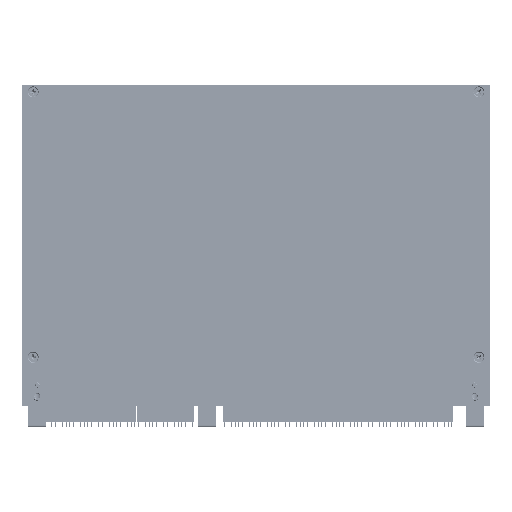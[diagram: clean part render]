
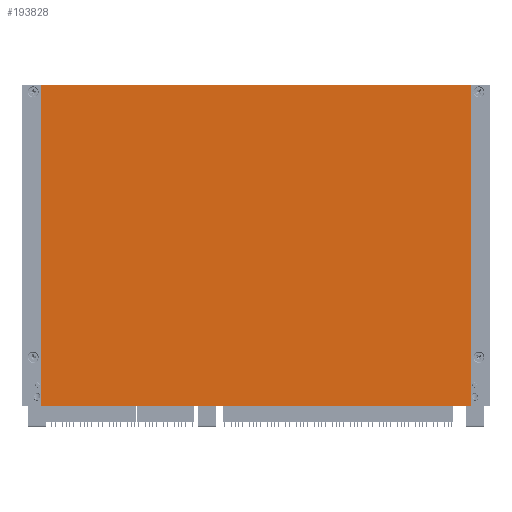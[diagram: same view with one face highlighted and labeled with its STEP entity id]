
A CAD part, left-side view. The second image highlights one B-rep face of the part: STEP entity #193828.
In plain terms, the highlighted planar face has unit normal (-1, 0, 0) as drawn and (0, 1, 0) by its records, which use the part's own axes.
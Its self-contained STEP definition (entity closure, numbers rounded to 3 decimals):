
#2120 = CARTESIAN_POINT ( 'NONE',  ( 107.213, 2.794, 160. ) ) ;
#4235 = DIRECTION ( 'NONE',  ( 0., 0., -1. ) ) ;
#24233 = VERTEX_POINT ( 'NONE', #2120 ) ;
#32590 = DIRECTION ( 'NONE',  ( -1., 0., 0. ) ) ;
#43149 = FACE_OUTER_BOUND ( 'NONE', #54106, .T. ) ;
#47545 = CARTESIAN_POINT ( 'NONE',  ( -107.213, 2.794, 160. ) ) ;
#48130 = EDGE_CURVE ( 'NONE', #80058, #160723, #224708, .T. ) ;
#49796 = DIRECTION ( 'NONE',  ( 0., 0., -1. ) ) ;
#54106 = EDGE_LOOP ( 'NONE', ( #255325, #88978, #160714, #247821 ) ) ;
#54832 = VERTEX_POINT ( 'NONE', #240835 ) ;
#59860 = CARTESIAN_POINT ( 'NONE',  ( -107.213, 2.794, 160. ) ) ;
#67775 = AXIS2_PLACEMENT_3D ( 'NONE', #199683, #123934, #4235 ) ;
#79980 = DIRECTION ( 'NONE',  ( -1., 0., 0. ) ) ;
#80058 = VERTEX_POINT ( 'NONE', #47545 ) ;
#87109 = CARTESIAN_POINT ( 'NONE',  ( -107.213, 2.794, 0. ) ) ;
#88978 = ORIENTED_EDGE ( 'NONE', *, *, #48130, .F. ) ;
#112450 = DIRECTION ( 'NONE',  ( 0., 0., -1. ) ) ;
#119506 = PLANE ( 'NONE',  #67775 ) ;
#120768 = EDGE_CURVE ( 'NONE', #54832, #160723, #236388, .T. ) ;
#123934 = DIRECTION ( 'NONE',  ( 0., -1., 0. ) ) ;
#135278 = VECTOR ( 'NONE', #79980, 1000. ) ;
#136593 = LINE ( 'NONE', #59860, #135278 ) ;
#160714 = ORIENTED_EDGE ( 'NONE', *, *, #191678, .F. ) ;
#160723 = VERTEX_POINT ( 'NONE', #87109 ) ;
#191678 = EDGE_CURVE ( 'NONE', #24233, #80058, #136593, .T. ) ;
#193828 = ADVANCED_FACE ( 'NONE', ( #43149 ), #119506, .F. ) ;
#195755 = EDGE_CURVE ( 'NONE', #24233, #54832, #219562, .T. ) ;
#199683 = CARTESIAN_POINT ( 'NONE',  ( -107.213, 2.794, 160. ) ) ;
#212360 = CARTESIAN_POINT ( 'NONE',  ( -107.213, 2.794, 0. ) ) ;
#218602 = VECTOR ( 'NONE', #49796, 1000. ) ;
#219562 = LINE ( 'NONE', #228605, #218602 ) ;
#221725 = VECTOR ( 'NONE', #112450, 1000. ) ;
#224708 = LINE ( 'NONE', #251959, #221725 ) ;
#228605 = CARTESIAN_POINT ( 'NONE',  ( 107.213, 2.794, 160. ) ) ;
#235817 = VECTOR ( 'NONE', #32590, 1000. ) ;
#236388 = LINE ( 'NONE', #212360, #235817 ) ;
#240835 = CARTESIAN_POINT ( 'NONE',  ( 107.213, 2.794, 0. ) ) ;
#247821 = ORIENTED_EDGE ( 'NONE', *, *, #195755, .T. ) ;
#251959 = CARTESIAN_POINT ( 'NONE',  ( -107.213, 2.794, 160. ) ) ;
#255325 = ORIENTED_EDGE ( 'NONE', *, *, #120768, .T. ) ;
